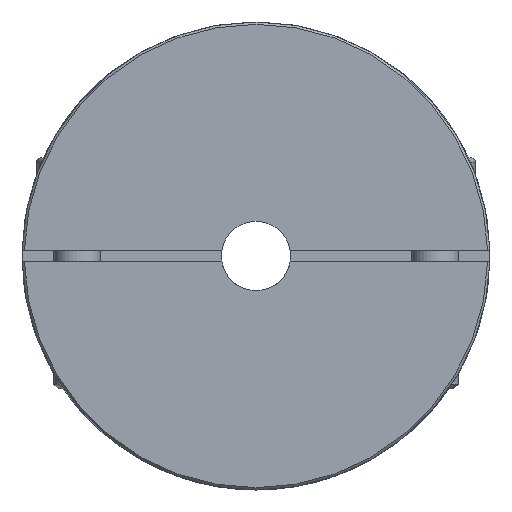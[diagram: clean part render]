
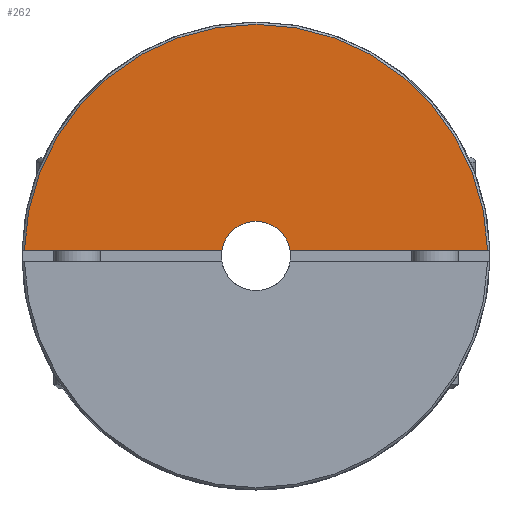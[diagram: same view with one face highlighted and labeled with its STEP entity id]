
A CAD part, left-side view. The second image highlights one B-rep face of the part: STEP entity #262.
In plain terms, the highlighted planar face has unit normal (-1, 0, 0) as drawn and (1, 0, 0) by its records, which use the part's own axes.
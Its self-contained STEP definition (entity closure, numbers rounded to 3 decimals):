
#262 = ADVANCED_FACE( '', ( #538 ), #539, .F. );
#538 = FACE_OUTER_BOUND( '', #949, .T. );
#539 = PLANE( '', #950 );
#949 = EDGE_LOOP( '', ( #1364, #1365, #1366, #1367 ) );
#950 = AXIS2_PLACEMENT_3D( '', #1368, #1369, #1370 );
#1364 = ORIENTED_EDGE( '', *, *, #2033, .T. );
#1365 = ORIENTED_EDGE( '', *, *, #2038, .T. );
#1366 = ORIENTED_EDGE( '', *, *, #2039, .T. );
#1367 = ORIENTED_EDGE( '', *, *, #2040, .T. );
#1368 = CARTESIAN_POINT( '', ( 13.5, 0., 3. ) );
#1369 = DIRECTION( '', ( -1., 0., 0. ) );
#1370 = DIRECTION( '', ( 0., 0., 1. ) );
#2033 = EDGE_CURVE( '', #2295, #2293, #2296, .T. );
#2038 = EDGE_CURVE( '', #2293, #2303, #2304, .F. );
#2039 = EDGE_CURVE( '', #2303, #2305, #2306, .T. );
#2040 = EDGE_CURVE( '', #2305, #2295, #2307, .T. );
#2293 = VERTEX_POINT( '', #2649 );
#2295 = VERTEX_POINT( '', #2654 );
#2296 = LINE( '', #2655, #2656 );
#2303 = VERTEX_POINT( '', #2665 );
#2304 = CIRCLE( '', #2666, 20.05 );
#2305 = VERTEX_POINT( '', #2667 );
#2306 = LINE( '', #2668, #2669 );
#2307 = CIRCLE( '', #2670, 3. );
#2649 = CARTESIAN_POINT( '', ( 13.5, 20.044, 0.5 ) );
#2654 = CARTESIAN_POINT( '', ( 13.5, 2.958, 0.5 ) );
#2655 = CARTESIAN_POINT( '', ( 13.5, 0., 0.5 ) );
#2656 = VECTOR( '', #3289, 1000. );
#2665 = CARTESIAN_POINT( '', ( 13.5, -20.044, 0.5 ) );
#2666 = AXIS2_PLACEMENT_3D( '', #3295, #3296, #3297 );
#2667 = CARTESIAN_POINT( '', ( 13.5, -2.958, 0.5 ) );
#2668 = CARTESIAN_POINT( '', ( 13.5, 0., 0.5 ) );
#2669 = VECTOR( '', #3298, 1000. );
#2670 = AXIS2_PLACEMENT_3D( '', #3299, #3300, #3301 );
#3289 = DIRECTION( '', ( 0., 1., 0. ) );
#3295 = CARTESIAN_POINT( '', ( 13.5, 0., 0. ) );
#3296 = DIRECTION( '', ( -1., 0., 0. ) );
#3297 = DIRECTION( '', ( 0., 0., 1. ) );
#3298 = DIRECTION( '', ( 0., 1., 0. ) );
#3299 = CARTESIAN_POINT( '', ( 13.5, 0., 0. ) );
#3300 = DIRECTION( '', ( -1., 0., 0. ) );
#3301 = DIRECTION( '', ( 0., 0., 1. ) );
